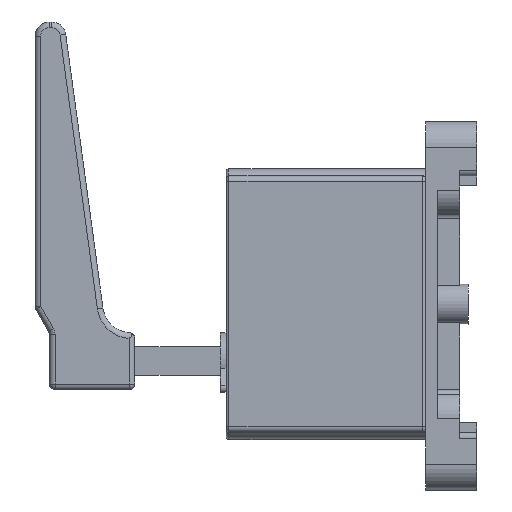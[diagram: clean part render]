
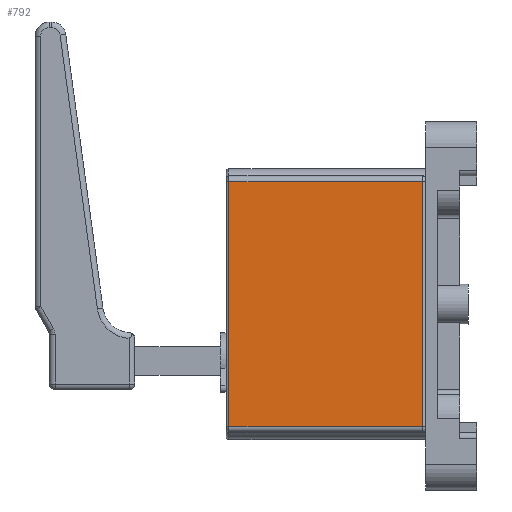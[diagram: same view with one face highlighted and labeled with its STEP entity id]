
A CAD part, left-side view. The second image highlights one B-rep face of the part: STEP entity #792.
In plain terms, the highlighted planar face has unit normal (-1, 0, 0).
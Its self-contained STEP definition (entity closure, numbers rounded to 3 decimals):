
#792=ADVANCED_FACE('',(#1098),#907,.F.);
#907=PLANE('',#4785);
#1098=FACE_OUTER_BOUND('',#1395,.T.);
#1395=EDGE_LOOP('',(#2510,#2511,#2512,#2513));
#2510=ORIENTED_EDGE('',*,*,#3614,.F.);
#2511=ORIENTED_EDGE('',*,*,#3600,.T.);
#2512=ORIENTED_EDGE('',*,*,#3615,.T.);
#2513=ORIENTED_EDGE('',*,*,#3303,.T.);
#2822=VERTEX_POINT('',#6725);
#2824=VERTEX_POINT('',#6730);
#3013=VERTEX_POINT('',#7444);
#3017=VERTEX_POINT('',#7476);
#3303=EDGE_CURVE('',#2822,#2824,#3793,.T.);
#3600=EDGE_CURVE('',#3013,#3017,#3950,.T.);
#3614=EDGE_CURVE('',#3013,#2824,#3957,.T.);
#3615=EDGE_CURVE('',#3017,#2822,#3958,.T.);
#3793=LINE('',#6731,#4136);
#3950=LINE('',#7477,#4293);
#3957=LINE('',#7529,#4300);
#3958=LINE('',#7531,#4301);
#4136=VECTOR('',#5393,1.);
#4293=VECTOR('',#6042,1.);
#4300=VECTOR('',#6067,1.);
#4301=VECTOR('',#6070,1.);
#4785=AXIS2_PLACEMENT_3D('',#7532,#6071,#6072);
#5393=DIRECTION('',(0.,0.,1.));
#6042=DIRECTION('',(0.,0.,-1.));
#6067=DIRECTION('',(0.,-1.,0.));
#6070=DIRECTION('',(0.,-1.,0.));
#6071=DIRECTION('',(1.,0.,0.));
#6072=DIRECTION('',(0.,0.,-1.));
#6725=CARTESIAN_POINT('',(-41.,1.,-43.));
#6730=CARTESIAN_POINT('',(-41.,1.,43.));
#6731=CARTESIAN_POINT('',(-41.,1.,-43.));
#7444=CARTESIAN_POINT('',(-41.,69.,43.));
#7476=CARTESIAN_POINT('',(-41.,69.,-43.));
#7477=CARTESIAN_POINT('',(-41.,69.,-43.));
#7529=CARTESIAN_POINT('',(-41.,35.,43.));
#7531=CARTESIAN_POINT('',(-41.,35.,-43.));
#7532=CARTESIAN_POINT('',(-41.,35.,-43.));
